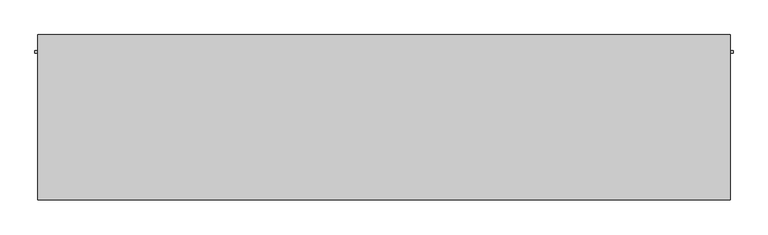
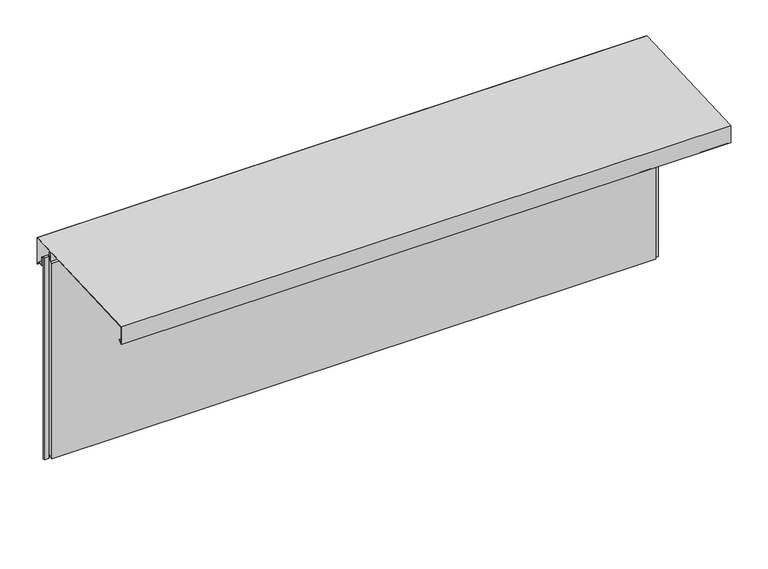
"""IFC4 building model written with IfcOpenShell, lengths in millimetres: plate geometry, Trimo_Qbiss Screen_Normal Panel-HORIZONTAL : HR - B."""

from ifc_helpers import new_model, si_unit, frame, origin, place, context, project, spatial, polyline, outline, extrude, source, transform, mapped, element, save


def plate_823f188f(model_context):
    return source(origin(), model_context, "Body", "SweptSolid", [
        extrude(outline(polyline([(101.0, 868.0), (77.0, 868.0), (77.0, 868.8), (101.8, 868.8), (101.8, 831.8), (125.3313708, 831.8), (133.2, 823.9313708), (133.2, 822.8), (125.0, 831.0), (101.0, 831.0), (101.0, 868.0)])), frame((-1268.75, 0.0, 0.0), z_axis=(1.0, 0.0, 0.0), x_axis=(0.0, 1.0, 0.0)), (0.0, 0.0, 1.0), 2537.5),
        extrude(outline(polyline([(134.2, 818.9715729), (134.2, 934.1569759), (-469.2, 905.4165497), (-469.2, 833.1070922), (-457.6367532, 844.670339), (-457.0710678, 844.1046536), (-470.0, 831.1757214), (-470.0, 906.1757214), (135.0, 935.0), (135.0, 817.040202), (123.020101, 829.020101), (123.5857864, 829.5857864), (134.2, 818.9715729)])), frame((-1268.75, 0.0, 0.0), z_axis=(1.0, 0.0, 0.0), x_axis=(0.0, 1.0, 0.0)), (0.0, 0.0, 1.0), 2537.5),
        extrude(outline(polyline([(-1259.25, 76.5978162), (-1259.25, 67.8978162), (-1278.25, 67.8978162), (-1278.25, 76.5978162), (-1259.25, 76.5978162)])), frame((0.0, 0.0, -1.0), z_axis=(0.0, 0.0, 1.0), x_axis=(1.0, 0.0, 0.0)), (0.0, 0.0, 1.0), 890.0),
        extrude(outline(polyline([(1259.25, 67.8978162), (1259.25, 76.5978162), (1278.25, 76.5978162), (1278.25, 67.8978162), (1259.25, 67.8978162)])), frame((0.0, 0.0, -1.0), z_axis=(0.0, 0.0, 1.0), x_axis=(1.0, 0.0, 0.0)), (0.0, 0.0, 1.0), 890.0),
        extrude(outline(polyline([(1256.25, 76.0), (1256.25, 71.0), (-1256.25, 71.0), (-1256.25, 76.0), (1256.25, 76.0)])), frame((0.0, 0.0, 868.0), z_axis=(0.0, 0.0, 1.0), x_axis=(1.0, 0.0, 0.0)), (0.0, 0.0, 1.0), 21.0),
        extrude(outline(polyline([(71.0, 867.0), (100.0, 867.0), (100.0, 0.0), (72.0, 0.0), (72.0, 15.5), (62.0, 15.5), (62.0, 7.0), (50.0, 7.0), (50.0, 867.0), (63.0, 867.0), (63.0, 904.5), (71.0, 904.5), (71.0, 867.0)])), frame((-1256.25, 0.0, 0.0), z_axis=(1.0, 0.0, 0.0), x_axis=(0.0, 1.0, 0.0)), (0.0, 0.0, 1.0), 2512.5),
    ])


if __name__ == "__main__":
    model = new_model("IFC4")
    model_context = context("Model", 3, world=origin())
    ifc_project = project(units=[si_unit("LENGTHUNIT", "METRE", prefix="MILLI")], contexts=[model_context])
    site = spatial("IfcSite", under=ifc_project)
    building = spatial("IfcBuilding", under=site)
    placement = place(None, origin())
    plate_shape = plate_823f188f(model_context)
    element("IfcPlate", 1, ObjectType="Trimo_Qbiss Screen_Normal Panel-HORIZONTAL : HR - B", at=placement, inside=building, context=model_context, shape_type="MappedRepresentation", body=[
        mapped(plate_shape, transform((0.0, 0.0, 0.0), x_axis=(1.0, 0.0, 0.0), y_axis=(0.0, 1.0, 0.0), z_axis=(0.0, 0.0, 1.0))),
    ])
    save(model, "model.ifc")
